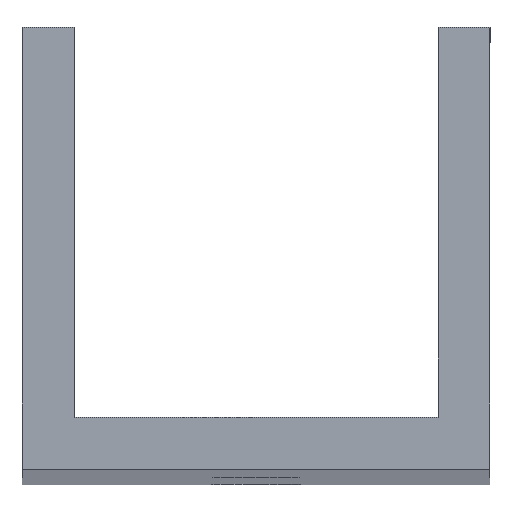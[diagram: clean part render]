
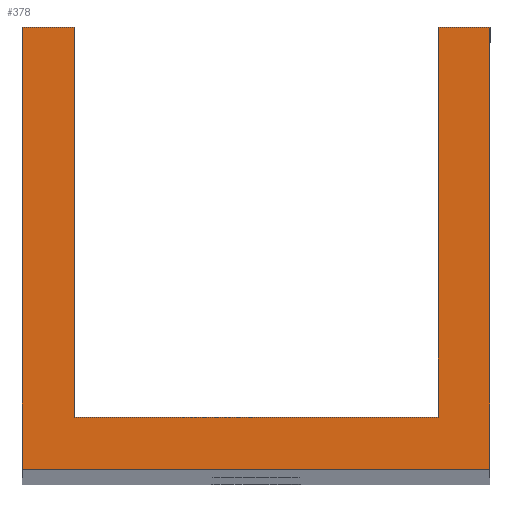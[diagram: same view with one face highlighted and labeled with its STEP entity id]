
A CAD part, top view. The second image highlights one B-rep face of the part: STEP entity #378.
In plain terms, the highlighted planar face has unit normal (0, 0, 1).
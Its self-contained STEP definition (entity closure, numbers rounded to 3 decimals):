
#62=PLANE('',#429);
#87=FACE_OUTER_BOUND('',#112,.T.);
#112=EDGE_LOOP('',(#349,#350,#351,#352,#353,#354,#355,#356));
#131=LINE('',#600,#164);
#133=LINE('',#604,#166);
#135=LINE('',#608,#168);
#137=LINE('',#612,#170);
#139=LINE('',#616,#172);
#141=LINE('',#620,#174);
#143=LINE('',#624,#176);
#145=LINE('',#627,#178);
#164=VECTOR('',#499,10.);
#166=VECTOR('',#503,10.);
#168=VECTOR('',#507,10.);
#170=VECTOR('',#511,10.);
#172=VECTOR('',#515,10.);
#174=VECTOR('',#519,10.);
#176=VECTOR('',#523,10.);
#178=VECTOR('',#527,10.);
#214=VERTEX_POINT('',#597);
#215=VERTEX_POINT('',#599);
#216=VERTEX_POINT('',#603);
#217=VERTEX_POINT('',#607);
#218=VERTEX_POINT('',#611);
#219=VERTEX_POINT('',#615);
#220=VERTEX_POINT('',#619);
#221=VERTEX_POINT('',#623);
#252=EDGE_CURVE('',#215,#214,#131,.T.);
#254=EDGE_CURVE('',#216,#215,#133,.T.);
#256=EDGE_CURVE('',#217,#216,#135,.T.);
#258=EDGE_CURVE('',#218,#217,#137,.T.);
#260=EDGE_CURVE('',#219,#218,#139,.T.);
#262=EDGE_CURVE('',#220,#219,#141,.T.);
#264=EDGE_CURVE('',#221,#220,#143,.T.);
#266=EDGE_CURVE('',#214,#221,#145,.T.);
#349=ORIENTED_EDGE('',*,*,#266,.T.);
#350=ORIENTED_EDGE('',*,*,#264,.T.);
#351=ORIENTED_EDGE('',*,*,#262,.T.);
#352=ORIENTED_EDGE('',*,*,#260,.T.);
#353=ORIENTED_EDGE('',*,*,#258,.T.);
#354=ORIENTED_EDGE('',*,*,#256,.T.);
#355=ORIENTED_EDGE('',*,*,#254,.T.);
#356=ORIENTED_EDGE('',*,*,#252,.T.);
#378=ADVANCED_FACE('',(#87),#62,.T.);
#429=AXIS2_PLACEMENT_3D('',#628,#528,#529);
#499=DIRECTION('',(0.,-1.,0.));
#503=DIRECTION('',(-1.,0.,0.));
#507=DIRECTION('',(0.,1.,0.));
#511=DIRECTION('',(-1.,0.,0.));
#515=DIRECTION('',(0.,-1.,0.));
#519=DIRECTION('',(-1.,0.,0.));
#523=DIRECTION('',(0.,1.,0.));
#527=DIRECTION('',(1.,0.,0.));
#528=DIRECTION('center_axis',(0.,0.,1.));
#529=DIRECTION('ref_axis',(1.,0.,0.));
#597=CARTESIAN_POINT('',(-9.,-2.,173.));
#599=CARTESIAN_POINT('',(-9.,15.,173.));
#600=CARTESIAN_POINT('',(-9.,15.,173.));
#603=CARTESIAN_POINT('',(-7.,15.,173.));
#604=CARTESIAN_POINT('',(-7.,15.,173.));
#607=CARTESIAN_POINT('',(-7.,0.,173.));
#608=CARTESIAN_POINT('',(-7.,0.,173.));
#611=CARTESIAN_POINT('',(7.,0.,173.));
#612=CARTESIAN_POINT('',(7.,0.,173.));
#615=CARTESIAN_POINT('',(7.,15.,173.));
#616=CARTESIAN_POINT('',(7.,15.,173.));
#619=CARTESIAN_POINT('',(9.,15.,173.));
#620=CARTESIAN_POINT('',(9.,15.,173.));
#623=CARTESIAN_POINT('',(9.,-2.,173.));
#624=CARTESIAN_POINT('',(9.,-2.,173.));
#627=CARTESIAN_POINT('',(-9.,-2.,173.));
#628=CARTESIAN_POINT('Origin',(0.,6.5,173.));
